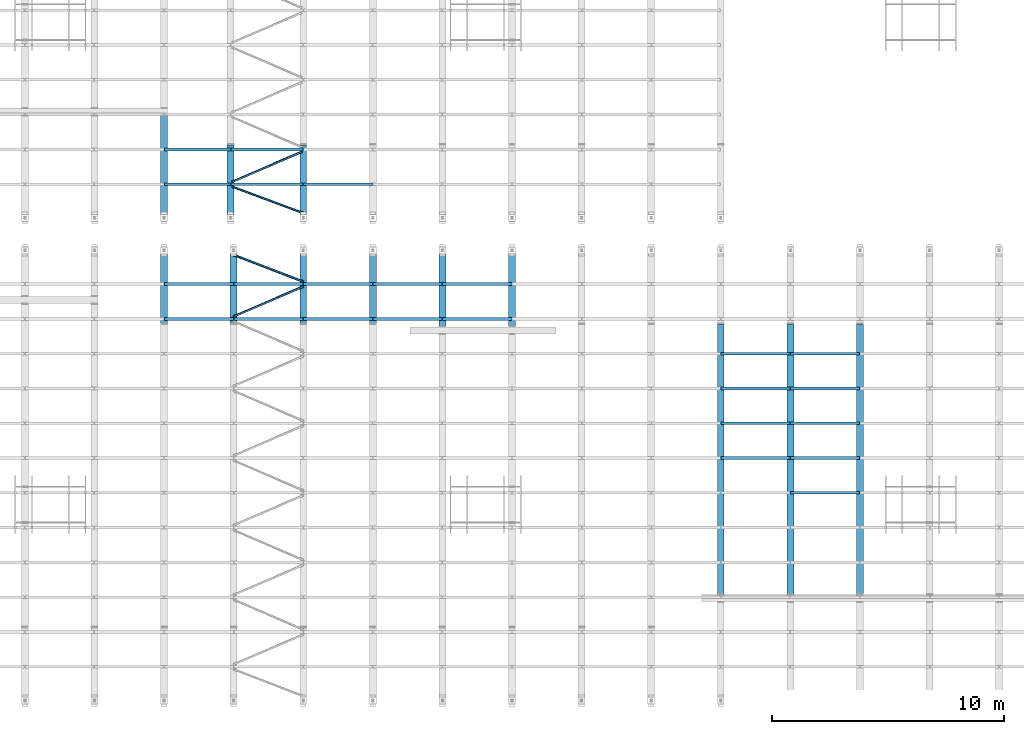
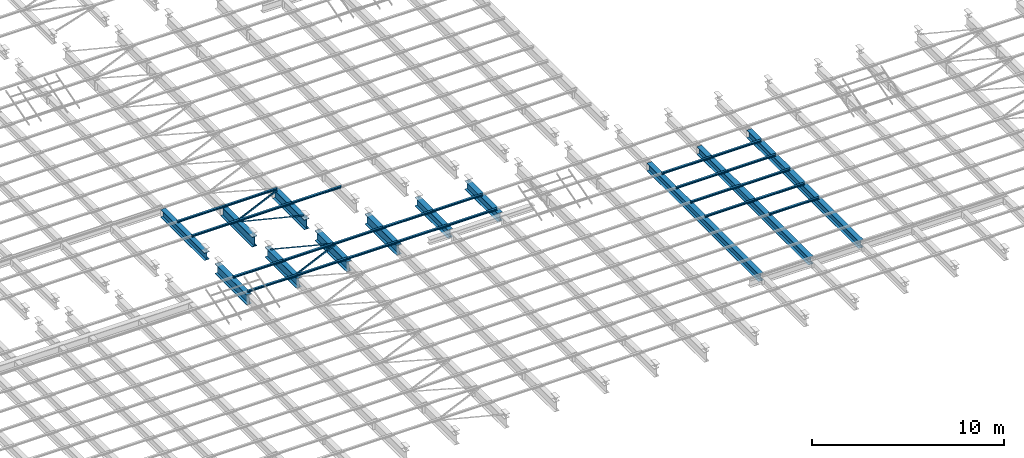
# One storey, part 47 of 139: 40 beams.
"""IFC2X3 building model written with IfcOpenShell, lengths in metres."""

from ifc_helpers import new_model, entity, si_unit, converted_unit, derived_unit, frame, origin, place, context, subcontext, project, spatial, polyline, outline, extrude, material, element, save


model = new_model("IFC2X3")

# Units and contexts
model_context = context("Model", 3, precision=1e-05, world=origin())
body_context = subcontext(model_context, "Body", "Model", "MODEL_VIEW")
ifc_project = project(units=[si_unit("LENGTHUNIT", "METRE"), si_unit("AREAUNIT", "SQUARE_METRE"), si_unit("VOLUMEUNIT", "CUBIC_METRE"), si_unit("MASSUNIT", "GRAM", prefix="KILO"), converted_unit("PLANEANGLEUNIT", "DEGREE", entity("IfcPlaneAngleMeasure", 0.0174532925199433), si_unit("PLANEANGLEUNIT", "RADIAN"), dimensions=[0, 0, 0, 0, 0, 0, 0]), derived_unit("THERMALTRANSMITTANCEUNIT", [(si_unit("POWERUNIT", "WATT"), 1), (si_unit("THERMODYNAMICTEMPERATUREUNIT", "KELVIN"), -1), (si_unit("LENGTHUNIT", "METRE"), -2)]), derived_unit("VOLUMETRICFLOWRATEUNIT", [(si_unit("LENGTHUNIT", "METRE"), 3), (converted_unit("TIMEUNIT", "hour", entity("IfcTimeMeasure", 3600.0), si_unit("TIMEUNIT", "SECOND"), dimensions=[0, 0, 1, 0, 0, 0, 0]), -1), (si_unit("LENGTHUNIT", "METRE"), -1)])], contexts=[model_context])

# Site, building, storey
site_placement = place(None, origin())
site = spatial("IfcSite", under=ifc_project, at=site_placement, Name="TWP_Speiseverteilzentrum SBW VZ II", CompositionType="ELEMENT")
building_placement = place(site_placement, origin())
building = spatial("IfcBuilding", under=site, at=building_placement, Name="Speiseverteilzentrum SBW VZ II", CompositionType="ELEMENT")
storey_placement = place(building_placement, frame((0.0, 0.0, 7.1307)))
storey = spatial("IfcBuildingStorey", under=building, at=storey_placement, Name="Wartung_FFB", CompositionType="ELEMENT", Elevation=7.1307)

# Beams
ifc_material_1 = material(Name="S235")
beam_1_placement = place(storey_placement, frame((67.0500000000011, 26.9020742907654, -0.435), z_axis=(0.0, 0.0, 1.0), x_axis=(-1.0, 0.0, 0.0)))
element("IfcBeam", 1, at=beam_1_placement, inside=storey, material=ifc_material_1, Name="Stahlträger", context=body_context, shape_type="SweptSolid", body=[
    extrude(outline(polyline([(-0.15, 0.245), (-0.15, 0.222), (-0.00599999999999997, 0.222), (-0.006, -0.222), (-0.15, -0.222), (-0.15, -0.245), (0.15, -0.245), (0.15, -0.222), (0.00600000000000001, -0.222), (0.00600000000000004, 0.222), (0.15, 0.222), (0.15, 0.245), (-0.15, 0.245)])), frame((0.0, 0.0, 0.0), z_axis=(0.0, 1.0, 0.0), x_axis=(-1.0, 0.0, 0.0)), (0.0, 0.0, 1.0), 11.6169742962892),
])
ifc_material_2 = material(Name="S235")
beam_2_placement = place(storey_placement, frame((70.0500000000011, 26.9020742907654, -0.435), z_axis=(0.0, 0.0, 1.0), x_axis=(-1.0, 0.0, 0.0)))
element("IfcBeam", 2, at=beam_2_placement, inside=storey, material=ifc_material_2, Name="Stahlträger", context=body_context, shape_type="SweptSolid", body=[
    extrude(outline(polyline([(-0.15, 0.245), (-0.15, 0.222), (-0.00599999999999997, 0.222), (-0.006, -0.222), (-0.15, -0.222), (-0.15, -0.245), (0.15, -0.245), (0.15, -0.222), (0.00600000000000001, -0.222), (0.00600000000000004, 0.222), (0.15, 0.222), (0.15, 0.245), (-0.15, 0.245)])), frame((0.0, 0.0, 0.0), z_axis=(0.0, 1.0, 0.0), x_axis=(-1.0, 0.0, 0.0)), (0.0, 0.0, 1.0), 11.6169742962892),
])
ifc_material_3 = material(Name="S235")
beam_3_placement = place(storey_placement, frame((73.0500000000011, 26.9020742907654, -0.435), z_axis=(0.0, 0.0, 1.0), x_axis=(-1.0, 0.0, 0.0)))
element("IfcBeam", 3, at=beam_3_placement, inside=storey, material=ifc_material_3, Name="Stahlträger", context=body_context, shape_type="SweptSolid", body=[
    extrude(outline(polyline([(-0.15, 0.245), (-0.15, 0.222), (-0.00599999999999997, 0.222), (-0.006, -0.222), (-0.15, -0.222), (-0.15, -0.245), (0.15, -0.245), (0.15, -0.222), (0.00600000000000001, -0.222), (0.00600000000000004, 0.222), (0.15, 0.222), (0.15, 0.245), (-0.15, 0.245)])), frame((0.0, 0.0, 0.0), z_axis=(0.0, 1.0, 0.0), x_axis=(-1.0, 0.0, 0.0)), (0.0, 0.0, 1.0), 11.6169742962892),
])
ifc_material_4 = material(Name="S235")
beam_4_placement = place(storey_placement, frame((49.0500000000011, 34.6479257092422, -0.51), z_axis=(0.0, 0.0, 1.0), x_axis=(-1.0, 0.0, 0.0)))
element("IfcBeam", 4, at=beam_4_placement, inside=storey, material=ifc_material_4, Name="Stahlträger", context=body_context, shape_type="SweptSolid", body=[
    extrude(outline(polyline([(-0.15, 0.32), (-0.15, 0.294), (-0.00675000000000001, 0.294), (-0.00675000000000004, -0.294), (-0.15, -0.294), (-0.15, -0.32), (0.15, -0.32), (0.15, -0.294), (0.00674999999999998, -0.294), (0.00675000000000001, 0.294), (0.15, 0.294), (0.15, 0.32), (-0.15, 0.32)])), frame((0.0, 0.0, 0.0), z_axis=(0.0, 1.0, 0.0), x_axis=(-1.0, 0.0, 0.0)), (0.0, 0.0, 1.0), 3.29792570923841),
])
ifc_material_5 = material(Name="S235")
beam_5_placement = place(storey_placement, frame((43.0500000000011, 35.9048478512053, -0.435), z_axis=(0.0, 0.0, 1.0), x_axis=(-1.0, 0.0, 0.0)))
element("IfcBeam", 5, at=beam_5_placement, inside=storey, material=ifc_material_5, Name="Stahlträger", context=body_context, shape_type="SweptSolid", body=[
    extrude(outline(polyline([(-0.15, 0.245), (-0.15, 0.222), (-0.00599999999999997, 0.222), (-0.006, -0.222), (-0.15, -0.222), (-0.15, -0.245), (0.15, -0.245), (0.15, -0.222), (0.00600000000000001, -0.222), (0.00600000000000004, 0.222), (0.15, 0.222), (0.15, 0.245), (-0.15, 0.245)])), frame((0.0, 0.0, 0.0), z_axis=(0.0, 1.0, 0.0), x_axis=(-1.0, 0.0, 0.0)), (0.0, 0.0, 1.0), 4.55484785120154),
])
ifc_material_6 = material(Name="S235")
beam_6_placement = place(storey_placement, frame((45.9200000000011, 34.6479257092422, -0.51), z_axis=(0.0, 0.0, 1.0), x_axis=(-1.0, 0.0, 0.0)))
element("IfcBeam", 6, at=beam_6_placement, inside=storey, material=ifc_material_6, Name="Stahlträger", context=body_context, shape_type="SweptSolid", body=[
    extrude(outline(polyline([(-0.15, 0.32), (-0.15, 0.294), (-0.00675000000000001, 0.294), (-0.00675000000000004, -0.294), (-0.15, -0.294), (-0.15, -0.32), (0.15, -0.32), (0.15, -0.294), (0.00674999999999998, -0.294), (0.00675000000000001, 0.294), (0.15, 0.294), (0.15, 0.32), (-0.15, 0.32)])), frame((0.0, 0.0, 0.0), z_axis=(0.0, 1.0, 0.0), x_axis=(-1.0, 0.0, 0.0)), (0.0, 0.0, 1.0), 3.29792570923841),
])
ifc_material_7 = material(Name="S235")
beam_7_placement = place(storey_placement, frame((43.0500000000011, 30.2500000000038, -0.51), z_axis=(0.0, 0.0, 1.0), x_axis=(-1.0, 0.0, 0.0)))
element("IfcBeam", 7, at=beam_7_placement, inside=storey, material=ifc_material_7, Name="Stahlträger", context=body_context, shape_type="SweptSolid", body=[
    extrude(outline(polyline([(-0.15, 0.32), (-0.15, 0.294), (-0.00675000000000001, 0.294), (-0.00675000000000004, -0.294), (-0.15, -0.294), (-0.15, -0.32), (0.15, -0.32), (0.15, -0.294), (0.00674999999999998, -0.294), (0.00675000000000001, 0.294), (0.15, 0.294), (0.15, 0.32), (-0.15, 0.32)])), frame((0.0, 0.0, 0.0), z_axis=(0.0, 1.0, 0.0), x_axis=(-1.0, 0.0, 0.0)), (0.0, 0.0, 1.0), 3.29792570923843),
])
ifc_material_8 = material(Name="S235")
beam_8_placement = place(storey_placement, frame((46.0500000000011, 30.2500000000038, -0.51), z_axis=(0.0, 0.0, 1.0), x_axis=(-1.0, 0.0, 0.0)))
element("IfcBeam", 8, at=beam_8_placement, inside=storey, material=ifc_material_8, Name="Stahlträger", context=body_context, shape_type="SweptSolid", body=[
    extrude(outline(polyline([(-0.15, 0.32), (-0.15, 0.294), (-0.00675000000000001, 0.294), (-0.00675000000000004, -0.294), (-0.15, -0.294), (-0.15, -0.32), (0.15, -0.32), (0.15, -0.294), (0.00674999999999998, -0.294), (0.00675000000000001, 0.294), (0.15, 0.294), (0.15, 0.32), (-0.15, 0.32)])), frame((0.0, 0.0, 0.0), z_axis=(0.0, 1.0, 0.0), x_axis=(-1.0, 0.0, 0.0)), (0.0, 0.0, 1.0), 3.29792570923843),
])
ifc_material_9 = material(Name="S235")
beam_9_placement = place(storey_placement, frame((49.0500000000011, 30.2500000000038, -0.51), z_axis=(0.0, 0.0, 1.0), x_axis=(-1.0, 0.0, 0.0)))
element("IfcBeam", 9, at=beam_9_placement, inside=storey, material=ifc_material_9, Name="Stahlträger", context=body_context, shape_type="SweptSolid", body=[
    extrude(outline(polyline([(-0.15, 0.32), (-0.15, 0.294), (-0.00675000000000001, 0.294), (-0.00675000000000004, -0.294), (-0.15, -0.294), (-0.15, -0.32), (0.15, -0.32), (0.15, -0.294), (0.00674999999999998, -0.294), (0.00675000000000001, 0.294), (0.15, 0.294), (0.15, 0.32), (-0.15, 0.32)])), frame((0.0, 0.0, 0.0), z_axis=(0.0, 1.0, 0.0), x_axis=(-1.0, 0.0, 0.0)), (0.0, 0.0, 1.0), 3.29792570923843),
])
ifc_material_10 = material(Name="S235")
beam_10_placement = place(storey_placement, frame((52.0500000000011, 30.2500000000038, -0.51), z_axis=(0.0, 0.0, 1.0), x_axis=(-1.0, 0.0, 0.0)))
element("IfcBeam", 10, at=beam_10_placement, inside=storey, material=ifc_material_10, Name="Stahlträger", context=body_context, shape_type="SweptSolid", body=[
    extrude(outline(polyline([(-0.15, 0.32), (-0.15, 0.294), (-0.00675000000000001, 0.294), (-0.00675000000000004, -0.294), (-0.15, -0.294), (-0.15, -0.32), (0.15, -0.32), (0.15, -0.294), (0.00674999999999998, -0.294), (0.00675000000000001, 0.294), (0.15, 0.294), (0.15, 0.32), (-0.15, 0.32)])), frame((0.0, 0.0, 0.0), z_axis=(0.0, 1.0, 0.0), x_axis=(-1.0, 0.0, 0.0)), (0.0, 0.0, 1.0), 3.29792570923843),
])
ifc_material_11 = material(Name="S235")
beam_11_placement = place(storey_placement, frame((58.0500000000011, 30.2500000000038, -0.46), z_axis=(0.0, 0.0, 1.0), x_axis=(-1.0, 0.0, 0.0)))
element("IfcBeam", 11, at=beam_11_placement, inside=storey, material=ifc_material_11, Name="Stahlträger", context=body_context, shape_type="SweptSolid", body=[
    extrude(outline(polyline([(-0.15, 0.27), (-0.15, 0.246), (-0.0062499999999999, 0.246), (-0.00624999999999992, -0.246), (-0.15, -0.246), (-0.15, -0.27), (0.15, -0.27), (0.15, -0.246), (0.00625000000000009, -0.246), (0.00625000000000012, 0.246), (0.15, 0.246), (0.15, 0.27), (-0.15, 0.27)])), frame((0.0, 0.0, 0.0), z_axis=(0.0, 1.0, 0.0), x_axis=(-1.0, 0.0, 0.0)), (0.0, 0.0, 1.0), 3.42506076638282),
])
ifc_material_12 = material(Name="S235")
beam_12_placement = place(storey_placement, frame((55.0500000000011, 30.2500000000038, -0.46), z_axis=(0.0, 0.0, 1.0), x_axis=(-1.0, 0.0, 0.0)))
element("IfcBeam", 12, at=beam_12_placement, inside=storey, material=ifc_material_12, Name="Stahlträger", context=body_context, shape_type="SweptSolid", body=[
    extrude(outline(polyline([(-0.15, 0.27), (-0.15, 0.246), (-0.0062499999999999, 0.246), (-0.00624999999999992, -0.246), (-0.15, -0.246), (-0.15, -0.27), (0.15, -0.27), (0.15, -0.246), (0.00625000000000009, -0.246), (0.00625000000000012, 0.246), (0.15, 0.246), (0.15, 0.27), (-0.15, 0.27)])), frame((0.0, 0.0, 0.0), z_axis=(0.0, 1.0, 0.0), x_axis=(-1.0, 0.0, 0.0)), (0.0, 0.0, 1.0), 3.42506076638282),
])
ifc_material_13 = material(Name="S235")
beam_13_placement = place(storey_placement, frame((49.0600000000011, 32.9500000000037, -0.133), z_axis=(0.0, 0.0, 1.0), x_axis=(0.0, -1.0, 0.0)))
element("IfcBeam", 13, at=beam_13_placement, inside=storey, material=ifc_material_13, Name="Nebenträger", context=body_context, shape_type="SweptSolid", body=[
    extrude(outline(polyline([(-0.06, 0.0570000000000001), (-0.06, 0.0490000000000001), (-0.00249999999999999, 0.0490000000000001), (-0.0025, -0.0489999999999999), (-0.06, -0.0489999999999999), (-0.06, -0.0569999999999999), (0.06, -0.0569999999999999), (0.06, -0.0489999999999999), (0.0025, -0.0489999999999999), (0.00250000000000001, 0.0490000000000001), (0.06, 0.0490000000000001), (0.06, 0.0570000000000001), (-0.06, 0.0570000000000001)])), frame((0.0, 0.0, 0.0), z_axis=(0.0, 1.0, 0.0), x_axis=(-1.0, 0.0, 0.0)), (0.0, 0.0, 1.0), 2.98),
])
ifc_material_14 = material(Name="S235")
beam_14_placement = place(storey_placement, frame((43.0600000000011, 28.6450742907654, -0.133), z_axis=(0.0, 0.0, 1.0), x_axis=(0.0, -1.0, 0.0)))
element("IfcBeam", 14, at=beam_14_placement, inside=storey, material=ifc_material_14, Name="Nebenträger", context=body_context, shape_type="SweptSolid", body=[
    extrude(outline(polyline([(-0.06, 0.0570000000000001), (-0.06, 0.0490000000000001), (-0.00249999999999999, 0.0490000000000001), (-0.0025, -0.0489999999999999), (-0.06, -0.0489999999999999), (-0.06, -0.0569999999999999), (0.06, -0.0569999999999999), (0.06, -0.0489999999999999), (0.0025, -0.0489999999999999), (0.00250000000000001, 0.0490000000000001), (0.06, 0.0490000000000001), (0.06, 0.0570000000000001), (-0.06, 0.0570000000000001)])), frame((0.0, 0.0, 0.0), z_axis=(0.0, 1.0, 0.0), x_axis=(-1.0, 0.0, 0.0)), (0.0, 0.0, 1.0), 2.98),
])
ifc_material_15 = material(Name="S235")
beam_15_placement = place(storey_placement, frame((46.0600000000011, 28.6450742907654, -0.133), z_axis=(0.0, 0.0, 1.0), x_axis=(0.0, -1.0, 0.0)))
element("IfcBeam", 15, at=beam_15_placement, inside=storey, material=ifc_material_15, Name="Nebenträger", context=body_context, shape_type="SweptSolid", body=[
    extrude(outline(polyline([(-0.06, 0.0570000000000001), (-0.06, 0.0490000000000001), (-0.00249999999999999, 0.0490000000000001), (-0.0025, -0.0489999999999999), (-0.06, -0.0489999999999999), (-0.06, -0.0569999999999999), (0.06, -0.0569999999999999), (0.06, -0.0489999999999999), (0.0025, -0.0489999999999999), (0.00250000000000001, 0.0490000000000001), (0.06, 0.0490000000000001), (0.06, 0.0570000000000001), (-0.06, 0.0570000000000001)])), frame((0.0, 0.0, 0.0), z_axis=(0.0, 1.0, 0.0), x_axis=(-1.0, 0.0, 0.0)), (0.0, 0.0, 1.0), 2.98),
])
ifc_material_16 = material(Name="S235")
beam_16_placement = place(storey_placement, frame((49.0600000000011, 28.6450742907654, -0.133), z_axis=(0.0, 0.0, 1.0), x_axis=(0.0, -1.0, 0.0)))
element("IfcBeam", 16, at=beam_16_placement, inside=storey, material=ifc_material_16, Name="Nebenträger", context=body_context, shape_type="SweptSolid", body=[
    extrude(outline(polyline([(-0.06, 0.0570000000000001), (-0.06, 0.0490000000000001), (-0.00249999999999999, 0.0490000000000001), (-0.0025, -0.0489999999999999), (-0.06, -0.0489999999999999), (-0.06, -0.0569999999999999), (0.06, -0.0569999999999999), (0.06, -0.0489999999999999), (0.0025, -0.0489999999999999), (0.00250000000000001, 0.0490000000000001), (0.06, 0.0490000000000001), (0.06, 0.0570000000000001), (-0.06, 0.0570000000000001)])), frame((0.0, 0.0, 0.0), z_axis=(0.0, 1.0, 0.0), x_axis=(-1.0, 0.0, 0.0)), (0.0, 0.0, 1.0), 2.98),
])
ifc_material_17 = material(Name="S235")
beam_17_placement = place(storey_placement, frame((52.0600000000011, 28.6450742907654, -0.133), z_axis=(0.0, 0.0, 1.0), x_axis=(0.0, -1.0, 0.0)))
element("IfcBeam", 17, at=beam_17_placement, inside=storey, material=ifc_material_17, Name="Nebenträger", context=body_context, shape_type="SweptSolid", body=[
    extrude(outline(polyline([(-0.06, 0.0570000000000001), (-0.06, 0.0490000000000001), (-0.00249999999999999, 0.0490000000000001), (-0.0025, -0.0489999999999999), (-0.06, -0.0489999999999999), (-0.06, -0.0569999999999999), (0.06, -0.0569999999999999), (0.06, -0.0489999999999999), (0.0025, -0.0489999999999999), (0.00250000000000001, 0.0490000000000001), (0.06, 0.0490000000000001), (0.06, 0.0570000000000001), (-0.06, 0.0570000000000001)])), frame((0.0, 0.0, 0.0), z_axis=(0.0, 1.0, 0.0), x_axis=(-1.0, 0.0, 0.0)), (0.0, 0.0, 1.0), 2.98),
])
ifc_material_18 = material(Name="S235")
beam_18_placement = place(storey_placement, frame((55.0600000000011, 28.6450742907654, -0.133), z_axis=(0.0, 0.0, 1.0), x_axis=(0.0, -1.0, 0.0)))
element("IfcBeam", 18, at=beam_18_placement, inside=storey, material=ifc_material_18, Name="Nebenträger", context=body_context, shape_type="SweptSolid", body=[
    extrude(outline(polyline([(-0.06, 0.0570000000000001), (-0.06, 0.0490000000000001), (-0.00249999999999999, 0.0490000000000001), (-0.0025, -0.0489999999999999), (-0.06, -0.0489999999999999), (-0.06, -0.0569999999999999), (0.06, -0.0569999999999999), (0.06, -0.0489999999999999), (0.0025, -0.0489999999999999), (0.00250000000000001, 0.0490000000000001), (0.06, 0.0490000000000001), (0.06, 0.0570000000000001), (-0.06, 0.0570000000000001)])), frame((0.0, 0.0, 0.0), z_axis=(0.0, 1.0, 0.0), x_axis=(-1.0, 0.0, 0.0)), (0.0, 0.0, 1.0), 2.98),
])
ifc_material_19 = material(Name="S235")
beam_19_placement = place(storey_placement, frame((43.0600000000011, 27.1450742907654, -0.133), z_axis=(0.0, 0.0, 1.0), x_axis=(0.0, -1.0, 0.0)))
element("IfcBeam", 19, at=beam_19_placement, inside=storey, material=ifc_material_19, Name="Nebenträger", context=body_context, shape_type="SweptSolid", body=[
    extrude(outline(polyline([(-0.06, 0.0570000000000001), (-0.06, 0.0490000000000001), (-0.00249999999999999, 0.0490000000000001), (-0.0025, -0.0489999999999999), (-0.06, -0.0489999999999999), (-0.06, -0.0569999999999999), (0.06, -0.0569999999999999), (0.06, -0.0489999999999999), (0.0025, -0.0489999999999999), (0.00250000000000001, 0.0490000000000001), (0.06, 0.0490000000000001), (0.06, 0.0570000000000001), (-0.06, 0.0570000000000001)])), frame((0.0, 0.0, 0.0), z_axis=(0.0, 1.0, 0.0), x_axis=(-1.0, 0.0, 0.0)), (0.0, 0.0, 1.0), 2.98),
])
ifc_material_20 = material(Name="S235")
beam_20_placement = place(storey_placement, frame((46.0600000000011, 27.1450742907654, -0.133), z_axis=(0.0, 0.0, 1.0), x_axis=(0.0, -1.0, 0.0)))
element("IfcBeam", 20, at=beam_20_placement, inside=storey, material=ifc_material_20, Name="Nebenträger", context=body_context, shape_type="SweptSolid", body=[
    extrude(outline(polyline([(-0.06, 0.0570000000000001), (-0.06, 0.0490000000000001), (-0.00249999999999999, 0.0490000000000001), (-0.0025, -0.0489999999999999), (-0.06, -0.0489999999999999), (-0.06, -0.0569999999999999), (0.06, -0.0569999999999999), (0.06, -0.0489999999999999), (0.0025, -0.0489999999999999), (0.00250000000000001, 0.0490000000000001), (0.06, 0.0490000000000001), (0.06, 0.0570000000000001), (-0.06, 0.0570000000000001)])), frame((0.0, 0.0, 0.0), z_axis=(0.0, 1.0, 0.0), x_axis=(-1.0, 0.0, 0.0)), (0.0, 0.0, 1.0), 2.98),
])
ifc_material_21 = material(Name="S235")
beam_21_placement = place(storey_placement, frame((49.0600000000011, 27.1450742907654, -0.133), z_axis=(0.0, 0.0, 1.0), x_axis=(0.0, -1.0, 0.0)))
element("IfcBeam", 21, at=beam_21_placement, inside=storey, material=ifc_material_21, Name="Nebenträger", context=body_context, shape_type="SweptSolid", body=[
    extrude(outline(polyline([(-0.06, 0.0570000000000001), (-0.06, 0.0490000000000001), (-0.00249999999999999, 0.0490000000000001), (-0.0025, -0.0489999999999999), (-0.06, -0.0489999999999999), (-0.06, -0.0569999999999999), (0.06, -0.0569999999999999), (0.06, -0.0489999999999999), (0.0025, -0.0489999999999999), (0.00250000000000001, 0.0490000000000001), (0.06, 0.0490000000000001), (0.06, 0.0570000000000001), (-0.06, 0.0570000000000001)])), frame((0.0, 0.0, 0.0), z_axis=(0.0, 1.0, 0.0), x_axis=(-1.0, 0.0, 0.0)), (0.0, 0.0, 1.0), 2.98),
])
ifc_material_22 = material(Name="S235")
beam_22_placement = place(storey_placement, frame((52.0600000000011, 27.1450742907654, -0.133), z_axis=(0.0, 0.0, 1.0), x_axis=(0.0, -1.0, 0.0)))
element("IfcBeam", 22, at=beam_22_placement, inside=storey, material=ifc_material_22, Name="Nebenträger", context=body_context, shape_type="SweptSolid", body=[
    extrude(outline(polyline([(-0.06, 0.0570000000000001), (-0.06, 0.0490000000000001), (-0.00249999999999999, 0.0490000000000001), (-0.0025, -0.0489999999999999), (-0.06, -0.0489999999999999), (-0.06, -0.0569999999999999), (0.06, -0.0569999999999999), (0.06, -0.0489999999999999), (0.0025, -0.0489999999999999), (0.00250000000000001, 0.0490000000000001), (0.06, 0.0490000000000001), (0.06, 0.0570000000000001), (-0.06, 0.0570000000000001)])), frame((0.0, 0.0, 0.0), z_axis=(0.0, 1.0, 0.0), x_axis=(-1.0, 0.0, 0.0)), (0.0, 0.0, 1.0), 2.98),
])
ifc_material_23 = material(Name="S235")
beam_23_placement = place(storey_placement, frame((55.0600000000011, 27.1450742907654, -0.133), z_axis=(0.0, 0.0, 1.0), x_axis=(0.0, -1.0, 0.0)))
element("IfcBeam", 23, at=beam_23_placement, inside=storey, material=ifc_material_23, Name="Nebenträger", context=body_context, shape_type="SweptSolid", body=[
    extrude(outline(polyline([(-0.06, 0.0570000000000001), (-0.06, 0.0490000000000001), (-0.00249999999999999, 0.0490000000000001), (-0.0025, -0.0489999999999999), (-0.06, -0.0489999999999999), (-0.06, -0.0569999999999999), (0.06, -0.0569999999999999), (0.06, -0.0489999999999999), (0.0025, -0.0489999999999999), (0.00250000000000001, 0.0490000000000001), (0.06, 0.0490000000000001), (0.06, 0.0570000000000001), (-0.06, 0.0570000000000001)])), frame((0.0, 0.0, 0.0), z_axis=(0.0, 1.0, 0.0), x_axis=(-1.0, 0.0, 0.0)), (0.0, 0.0, 1.0), 2.98),
])
ifc_material_24 = material(Name="S235")
beam_24_placement = place(storey_placement, frame((67.0600000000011, 25.6450742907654, -0.133), z_axis=(0.0, 0.0, 1.0), x_axis=(0.0, -1.0, 0.0)))
element("IfcBeam", 24, at=beam_24_placement, inside=storey, material=ifc_material_24, Name="Nebenträger", context=body_context, shape_type="SweptSolid", body=[
    extrude(outline(polyline([(-0.06, 0.0570000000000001), (-0.06, 0.0490000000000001), (-0.00249999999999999, 0.0490000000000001), (-0.0025, -0.0489999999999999), (-0.06, -0.0489999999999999), (-0.06, -0.0569999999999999), (0.06, -0.0569999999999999), (0.06, -0.0489999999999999), (0.0025, -0.0489999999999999), (0.00250000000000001, 0.0490000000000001), (0.06, 0.0490000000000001), (0.06, 0.0570000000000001), (-0.06, 0.0570000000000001)])), frame((0.0, 0.0, 0.0), z_axis=(0.0, 1.0, 0.0), x_axis=(-1.0, 0.0, 0.0)), (0.0, 0.0, 1.0), 2.98),
])
ifc_material_25 = material(Name="S235")
beam_25_placement = place(storey_placement, frame((70.0600000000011, 25.6450742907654, -0.133), z_axis=(0.0, 0.0, 1.0), x_axis=(0.0, -1.0, 0.0)))
element("IfcBeam", 25, at=beam_25_placement, inside=storey, material=ifc_material_25, Name="Nebenträger", context=body_context, shape_type="SweptSolid", body=[
    extrude(outline(polyline([(-0.06, 0.0570000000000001), (-0.06, 0.0490000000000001), (-0.00249999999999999, 0.0490000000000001), (-0.0025, -0.0489999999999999), (-0.06, -0.0489999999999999), (-0.06, -0.0569999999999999), (0.06, -0.0569999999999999), (0.06, -0.0489999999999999), (0.0025, -0.0489999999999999), (0.00250000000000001, 0.0490000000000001), (0.06, 0.0490000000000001), (0.06, 0.0570000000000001), (-0.06, 0.0570000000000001)])), frame((0.0, 0.0, 0.0), z_axis=(0.0, 1.0, 0.0), x_axis=(-1.0, 0.0, 0.0)), (0.0, 0.0, 1.0), 2.98),
])
ifc_material_26 = material(Name="S235")
beam_26_placement = place(storey_placement, frame((67.0600000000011, 24.1450742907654, -0.133), z_axis=(0.0, 0.0, 1.0), x_axis=(0.0, -1.0, 0.0)))
element("IfcBeam", 26, at=beam_26_placement, inside=storey, material=ifc_material_26, Name="Nebenträger", context=body_context, shape_type="SweptSolid", body=[
    extrude(outline(polyline([(-0.06, 0.0570000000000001), (-0.06, 0.0490000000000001), (-0.00249999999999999, 0.0490000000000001), (-0.0025, -0.0489999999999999), (-0.06, -0.0489999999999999), (-0.06, -0.0569999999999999), (0.06, -0.0569999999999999), (0.06, -0.0489999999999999), (0.0025, -0.0489999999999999), (0.00250000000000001, 0.0490000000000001), (0.06, 0.0490000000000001), (0.06, 0.0570000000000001), (-0.06, 0.0570000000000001)])), frame((0.0, 0.0, 0.0), z_axis=(0.0, 1.0, 0.0), x_axis=(-1.0, 0.0, 0.0)), (0.0, 0.0, 1.0), 2.98),
])
ifc_material_27 = material(Name="S235")
beam_27_placement = place(storey_placement, frame((70.0600000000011, 24.1450742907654, -0.133), z_axis=(0.0, 0.0, 1.0), x_axis=(0.0, -1.0, 0.0)))
element("IfcBeam", 27, at=beam_27_placement, inside=storey, material=ifc_material_27, Name="Nebenträger", context=body_context, shape_type="SweptSolid", body=[
    extrude(outline(polyline([(-0.06, 0.0570000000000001), (-0.06, 0.0490000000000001), (-0.00249999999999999, 0.0490000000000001), (-0.0025, -0.0489999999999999), (-0.06, -0.0489999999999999), (-0.06, -0.0569999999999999), (0.06, -0.0569999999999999), (0.06, -0.0489999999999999), (0.0025, -0.0489999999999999), (0.00250000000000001, 0.0490000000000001), (0.06, 0.0490000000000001), (0.06, 0.0570000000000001), (-0.06, 0.0570000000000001)])), frame((0.0, 0.0, 0.0), z_axis=(0.0, 1.0, 0.0), x_axis=(-1.0, 0.0, 0.0)), (0.0, 0.0, 1.0), 2.98),
])
ifc_material_28 = material(Name="S235")
beam_28_placement = place(storey_placement, frame((67.0600000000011, 22.6450742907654, -0.133), z_axis=(0.0, 0.0, 1.0), x_axis=(0.0, -1.0, 0.0)))
element("IfcBeam", 28, at=beam_28_placement, inside=storey, material=ifc_material_28, Name="Nebenträger", context=body_context, shape_type="SweptSolid", body=[
    extrude(outline(polyline([(-0.06, 0.0570000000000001), (-0.06, 0.0490000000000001), (-0.00249999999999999, 0.0490000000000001), (-0.0025, -0.0489999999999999), (-0.06, -0.0489999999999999), (-0.06, -0.0569999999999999), (0.06, -0.0569999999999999), (0.06, -0.0489999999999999), (0.0025, -0.0489999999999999), (0.00250000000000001, 0.0490000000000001), (0.06, 0.0490000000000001), (0.06, 0.0570000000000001), (-0.06, 0.0570000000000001)])), frame((0.0, 0.0, 0.0), z_axis=(0.0, 1.0, 0.0), x_axis=(-1.0, 0.0, 0.0)), (0.0, 0.0, 1.0), 2.98),
])
ifc_material_29 = material(Name="S235")
beam_29_placement = place(storey_placement, frame((70.0600000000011, 22.6450742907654, -0.133), z_axis=(0.0, 0.0, 1.0), x_axis=(0.0, -1.0, 0.0)))
element("IfcBeam", 29, at=beam_29_placement, inside=storey, material=ifc_material_29, Name="Nebenträger", context=body_context, shape_type="SweptSolid", body=[
    extrude(outline(polyline([(-0.06, 0.0570000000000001), (-0.06, 0.0490000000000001), (-0.00249999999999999, 0.0490000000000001), (-0.0025, -0.0489999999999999), (-0.06, -0.0489999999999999), (-0.06, -0.0569999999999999), (0.06, -0.0569999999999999), (0.06, -0.0489999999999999), (0.0025, -0.0489999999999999), (0.00250000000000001, 0.0490000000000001), (0.06, 0.0490000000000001), (0.06, 0.0570000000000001), (-0.06, 0.0570000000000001)])), frame((0.0, 0.0, 0.0), z_axis=(0.0, 1.0, 0.0), x_axis=(-1.0, 0.0, 0.0)), (0.0, 0.0, 1.0), 2.98),
])
ifc_material_30 = material(Name="S235")
beam_30_placement = place(storey_placement, frame((67.0600000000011, 21.1450742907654, -0.133), z_axis=(0.0, 0.0, 1.0), x_axis=(0.0, -1.0, 0.0)))
element("IfcBeam", 30, at=beam_30_placement, inside=storey, material=ifc_material_30, Name="Nebenträger", context=body_context, shape_type="SweptSolid", body=[
    extrude(outline(polyline([(-0.06, 0.0570000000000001), (-0.06, 0.0490000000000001), (-0.00249999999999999, 0.0490000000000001), (-0.0025, -0.0489999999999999), (-0.06, -0.0489999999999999), (-0.06, -0.0569999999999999), (0.06, -0.0569999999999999), (0.06, -0.0489999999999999), (0.0025, -0.0489999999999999), (0.00250000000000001, 0.0490000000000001), (0.06, 0.0490000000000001), (0.06, 0.0570000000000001), (-0.06, 0.0570000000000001)])), frame((0.0, 0.0, 0.0), z_axis=(0.0, 1.0, 0.0), x_axis=(-1.0, 0.0, 0.0)), (0.0, 0.0, 1.0), 2.98),
])
ifc_material_31 = material(Name="S235")
beam_31_placement = place(storey_placement, frame((70.0600000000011, 21.1450742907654, -0.133), z_axis=(0.0, 0.0, 1.0), x_axis=(0.0, -1.0, 0.0)))
element("IfcBeam", 31, at=beam_31_placement, inside=storey, material=ifc_material_31, Name="Nebenträger", context=body_context, shape_type="SweptSolid", body=[
    extrude(outline(polyline([(-0.06, 0.0570000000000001), (-0.06, 0.0490000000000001), (-0.00249999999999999, 0.0490000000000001), (-0.0025, -0.0489999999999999), (-0.06, -0.0489999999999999), (-0.06, -0.0569999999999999), (0.06, -0.0569999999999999), (0.06, -0.0489999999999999), (0.0025, -0.0489999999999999), (0.00250000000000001, 0.0490000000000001), (0.06, 0.0490000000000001), (0.06, 0.0570000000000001), (-0.06, 0.0570000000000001)])), frame((0.0, 0.0, 0.0), z_axis=(0.0, 1.0, 0.0), x_axis=(-1.0, 0.0, 0.0)), (0.0, 0.0, 1.0), 2.98),
])
ifc_material_32 = material(Name="S235")
beam_32_placement = place(storey_placement, frame((70.0600000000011, 19.6450742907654, -0.133), z_axis=(0.0, 0.0, 1.0), x_axis=(0.0, -1.0, 0.0)))
element("IfcBeam", 32, at=beam_32_placement, inside=storey, material=ifc_material_32, Name="Nebenträger", context=body_context, shape_type="SweptSolid", body=[
    extrude(outline(polyline([(-0.06, 0.0570000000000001), (-0.06, 0.0490000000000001), (-0.00249999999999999, 0.0490000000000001), (-0.0025, -0.0489999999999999), (-0.06, -0.0489999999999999), (-0.06, -0.0569999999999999), (0.06, -0.0569999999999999), (0.06, -0.0489999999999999), (0.0025, -0.0489999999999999), (0.00250000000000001, 0.0490000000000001), (0.06, 0.0490000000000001), (0.06, 0.0570000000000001), (-0.06, 0.0570000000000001)])), frame((0.0, 0.0, 0.0), z_axis=(0.0, 1.0, 0.0), x_axis=(-1.0, 0.0, 0.0)), (0.0, 0.0, 1.0), 2.98),
])
ifc_material_33 = material(Name="S235")
beam_33_placement = place(storey_placement, frame((43.0600000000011, 34.4500000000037, -0.133), z_axis=(0.0, 0.0, 1.0), x_axis=(0.0, -1.0, 0.0)))
element("IfcBeam", 33, at=beam_33_placement, inside=storey, material=ifc_material_33, Name="Nebenträger", context=body_context, shape_type="SweptSolid", body=[
    extrude(outline(polyline([(-0.06, 0.0570000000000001), (-0.06, 0.0490000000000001), (-0.00249999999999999, 0.0490000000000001), (-0.0025, -0.0489999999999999), (-0.06, -0.0489999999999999), (-0.06, -0.0569999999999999), (0.06, -0.0569999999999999), (0.06, -0.0489999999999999), (0.0025, -0.0489999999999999), (0.00250000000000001, 0.0490000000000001), (0.06, 0.0490000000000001), (0.06, 0.0570000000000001), (-0.06, 0.0570000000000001)])), frame((0.0, 0.0, 0.0), z_axis=(0.0, 1.0, 0.0), x_axis=(-1.0, 0.0, 0.0)), (0.0, 0.0, 1.0), 2.84999999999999),
])
ifc_material_34 = material(Name="S235")
beam_34_placement = place(storey_placement, frame((45.9300000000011, 34.4500000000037, -0.133), z_axis=(0.0, 0.0, 1.0), x_axis=(0.0, -1.0, 0.0)))
element("IfcBeam", 34, at=beam_34_placement, inside=storey, material=ifc_material_34, Name="Nebenträger", context=body_context, shape_type="SweptSolid", body=[
    extrude(outline(polyline([(-0.06, 0.0570000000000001), (-0.06, 0.0490000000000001), (-0.00249999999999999, 0.0490000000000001), (-0.0025, -0.0489999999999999), (-0.06, -0.0489999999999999), (-0.06, -0.0569999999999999), (0.06, -0.0569999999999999), (0.06, -0.0489999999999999), (0.0025, -0.0489999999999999), (0.00250000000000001, 0.0490000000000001), (0.06, 0.0490000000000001), (0.06, 0.0570000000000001), (-0.06, 0.0570000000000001)])), frame((0.0, 0.0, 0.0), z_axis=(0.0, 1.0, 0.0), x_axis=(-1.0, 0.0, 0.0)), (0.0, 0.0, 1.0), 3.11000000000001),
])
ifc_material_35 = material(Name="S235")
beam_35_placement = place(storey_placement, frame((43.0600000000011, 32.9500000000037, -0.133), z_axis=(0.0, 0.0, 1.0), x_axis=(0.0, -1.0, 0.0)))
element("IfcBeam", 35, at=beam_35_placement, inside=storey, material=ifc_material_35, Name="Nebenträger", context=body_context, shape_type="SweptSolid", body=[
    extrude(outline(polyline([(-0.06, 0.0570000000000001), (-0.06, 0.0490000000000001), (-0.00249999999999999, 0.0490000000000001), (-0.0025, -0.0489999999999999), (-0.06, -0.0489999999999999), (-0.06, -0.0569999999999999), (0.06, -0.0569999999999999), (0.06, -0.0489999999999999), (0.0025, -0.0489999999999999), (0.00250000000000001, 0.0490000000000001), (0.06, 0.0490000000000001), (0.06, 0.0570000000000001), (-0.06, 0.0570000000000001)])), frame((0.0, 0.0, 0.0), z_axis=(0.0, 1.0, 0.0), x_axis=(-1.0, 0.0, 0.0)), (0.0, 0.0, 1.0), 2.84999999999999),
])
ifc_material_36 = material(Name="S235")
beam_36_placement = place(storey_placement, frame((45.9300000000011, 32.9500000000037, -0.133), z_axis=(0.0, 0.0, 1.0), x_axis=(0.0, -1.0, 0.0)))
element("IfcBeam", 36, at=beam_36_placement, inside=storey, material=ifc_material_36, Name="Nebenträger", context=body_context, shape_type="SweptSolid", body=[
    extrude(outline(polyline([(-0.06, 0.0570000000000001), (-0.06, 0.0490000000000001), (-0.00249999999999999, 0.0490000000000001), (-0.0025, -0.0489999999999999), (-0.06, -0.0489999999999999), (-0.06, -0.0569999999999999), (0.06, -0.0569999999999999), (0.06, -0.0489999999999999), (0.0025, -0.0489999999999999), (0.00250000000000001, 0.0490000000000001), (0.06, 0.0490000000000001), (0.06, 0.0570000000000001), (-0.06, 0.0570000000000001)])), frame((0.0, 0.0, 0.0), z_axis=(0.0, 1.0, 0.0), x_axis=(-1.0, 0.0, 0.0)), (0.0, 0.0, 1.0), 3.11000000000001),
])
ifc_material_37 = material(Name="S235")
beam_37_placement = place(storey_placement, frame((46.0406913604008, 27.2634673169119, -0.167052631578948), z_axis=(0.0, 0.0, 1.0), x_axis=(0.395932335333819, -0.91827968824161, 0.0)))
element("IfcBeam", 37, at=beam_37_placement, inside=storey, material=ifc_material_37, Name="Kreuzverband", context=body_context, shape_type="SweptSolid", body=[
    extrude(outline(polyline([(0.0229473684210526, -0.0229473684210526), (0.0229473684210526, 0.0570526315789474), (0.0149473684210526, 0.0570526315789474), (0.0149473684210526, -0.0149473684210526), (-0.0570526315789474, -0.0149473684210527), (-0.0570526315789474, -0.0229473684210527), (0.0229473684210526, -0.0229473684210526)])), frame((0.0, 0.0, 0.0), z_axis=(0.0, 0.999999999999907, 0.0), x_axis=(-1.0, 0.0, 0.0)), (0.0, 0.0, 1.0), 3.27000000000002),
])
ifc_material_38 = material(Name="S235")
beam_38_placement = place(storey_placement, frame((45.9756913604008, 33.0683930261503, -0.167052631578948), z_axis=(0.0, 0.0, 1.0), x_axis=(0.395932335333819, -0.91827968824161, 0.0)))
element("IfcBeam", 38, at=beam_38_placement, inside=storey, material=ifc_material_38, Name="Kreuzverband", context=body_context, shape_type="SweptSolid", body=[
    extrude(outline(polyline([(0.0229473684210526, -0.0229473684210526), (0.0229473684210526, 0.0570526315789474), (0.0149473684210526, 0.0570526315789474), (0.0149473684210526, -0.0149473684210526), (-0.0570526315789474, -0.0149473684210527), (-0.0570526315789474, -0.0229473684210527), (0.0229473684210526, -0.0229473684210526)])), frame((0.0, 0.0, 0.0), z_axis=(0.0, 0.999999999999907, 0.0), x_axis=(-1.0, 0.0, 0.0)), (0.0, 0.0, 1.0), 3.27000000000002),
])
ifc_material_39 = material(Name="S235")
beam_39_placement = place(storey_placement, frame((45.9783221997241, 32.8305493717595, -0.167052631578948), z_axis=(0.0, 0.0, 1.0), x_axis=(-0.349819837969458, -0.936816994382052, 0.0)))
element("IfcBeam", 39, at=beam_39_placement, inside=storey, material=ifc_material_39, Name="Kreuzverband", context=body_context, shape_type="SweptSolid", body=[
    extrude(outline(polyline([(0.0570526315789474, -0.0229473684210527), (0.0570526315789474, -0.0149473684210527), (-0.0149473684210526, -0.0149473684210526), (-0.0149473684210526, 0.0570526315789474), (-0.0229473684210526, 0.0570526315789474), (-0.0229473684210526, -0.0229473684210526), (0.0570526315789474, -0.0229473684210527)])), frame((0.0, 0.0, 0.0), z_axis=(0.0, 1.00000000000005, 0.0), x_axis=(-1.0, 0.0, 0.0)), (0.0, 0.0, 1.0), 3.30000000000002),
])
ifc_material_40 = material(Name="S235")
beam_40_placement = place(storey_placement, frame((46.0281353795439, 29.8924000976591, -0.167052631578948), z_axis=(0.0, 0.0, 1.0), x_axis=(-0.359155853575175, -0.933277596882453, 0.0)))
element("IfcBeam", 40, at=beam_40_placement, inside=storey, material=ifc_material_40, Name="Kreuzverband", context=body_context, shape_type="SweptSolid", body=[
    extrude(outline(polyline([(0.0570526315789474, -0.0229473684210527), (0.0570526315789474, -0.0149473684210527), (-0.0149473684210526, -0.0149473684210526), (-0.0149473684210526, 0.0570526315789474), (-0.0229473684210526, 0.0570526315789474), (-0.0229473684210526, -0.0229473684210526), (0.0570526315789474, -0.0229473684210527)])), frame((0.0, 0.0, 0.0), z_axis=(0.0, 1.00000000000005, 0.0), x_axis=(-1.0, 0.0, 0.0)), (0.0, 0.0, 1.0), 3.23000000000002),
])

save(model, "model.ifc")
